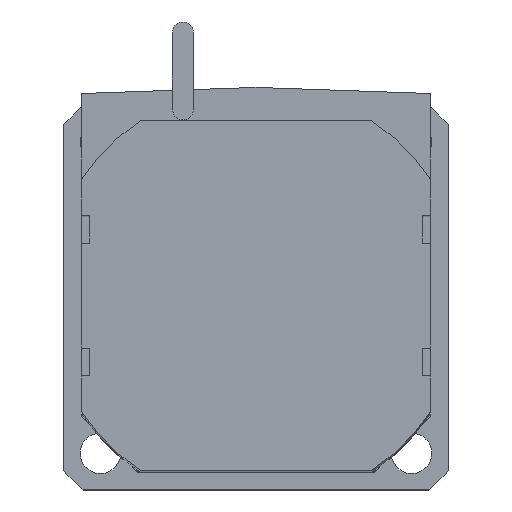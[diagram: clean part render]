
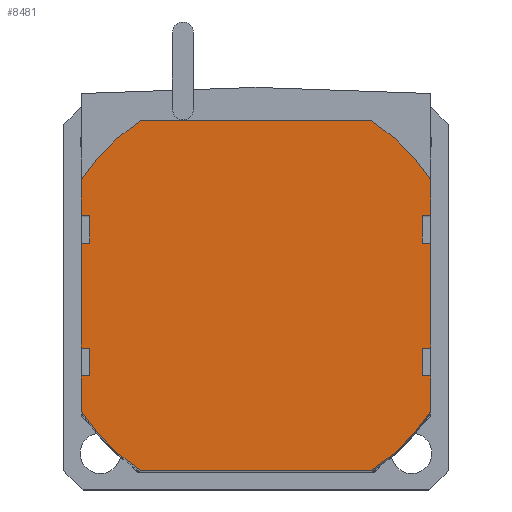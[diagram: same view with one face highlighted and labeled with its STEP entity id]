
A CAD part, top view. The second image highlights one B-rep face of the part: STEP entity #8481.
In plain terms, the highlighted planar face has unit normal (0, 0, 1).
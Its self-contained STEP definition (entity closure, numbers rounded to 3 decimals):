
#2322=LINE('',#12377,#10133);
#2323=LINE('',#12380,#10134);
#2324=LINE('',#12382,#10135);
#2325=LINE('',#12384,#10136);
#2326=LINE('',#12388,#10137);
#2327=LINE('',#12392,#10138);
#2328=LINE('',#12394,#10139);
#2329=LINE('',#12396,#10140);
#2330=LINE('',#12398,#10141);
#2331=LINE('',#12400,#10142);
#2332=LINE('',#12402,#10143);
#2333=LINE('',#12404,#10144);
#2334=LINE('',#12406,#10145);
#2335=LINE('',#12408,#10146);
#2336=LINE('',#12412,#10147);
#2337=LINE('',#12416,#10148);
#2338=LINE('',#12418,#10149);
#2339=LINE('',#12420,#10150);
#2340=LINE('',#12422,#10151);
#2341=LINE('',#12424,#10152);
#3064=VERTEX_POINT('',#12378);
#3065=VERTEX_POINT('',#12379);
#3066=VERTEX_POINT('',#12381);
#3067=VERTEX_POINT('',#12383);
#3068=VERTEX_POINT('',#12385);
#3069=VERTEX_POINT('',#12387);
#3070=VERTEX_POINT('',#12389);
#3071=VERTEX_POINT('',#12391);
#3072=VERTEX_POINT('',#12393);
#3073=VERTEX_POINT('',#12395);
#3074=VERTEX_POINT('',#12397);
#3075=VERTEX_POINT('',#12399);
#3076=VERTEX_POINT('',#12401);
#3077=VERTEX_POINT('',#12403);
#3078=VERTEX_POINT('',#12405);
#3079=VERTEX_POINT('',#12407);
#3080=VERTEX_POINT('',#12409);
#3081=VERTEX_POINT('',#12411);
#3082=VERTEX_POINT('',#12413);
#3083=VERTEX_POINT('',#12415);
#3084=VERTEX_POINT('',#12417);
#3085=VERTEX_POINT('',#12419);
#3086=VERTEX_POINT('',#12421);
#3087=VERTEX_POINT('',#12423);
#3697=CIRCLE('',#9195,30.);
#3698=CIRCLE('',#9196,30.);
#3699=CIRCLE('',#9197,30.);
#3700=CIRCLE('',#9198,30.);
#4321=EDGE_CURVE('',#3064,#3065,#2322,.T.);
#4322=EDGE_CURVE('',#3066,#3064,#2323,.T.);
#4323=EDGE_CURVE('',#3067,#3066,#2324,.T.);
#4324=EDGE_CURVE('',#3068,#3067,#2325,.T.);
#4325=EDGE_CURVE('',#3069,#3068,#3697,.T.);
#4326=EDGE_CURVE('',#3070,#3069,#2326,.T.);
#4327=EDGE_CURVE('',#3071,#3070,#3698,.T.);
#4328=EDGE_CURVE('',#3072,#3071,#2327,.T.);
#4329=EDGE_CURVE('',#3073,#3072,#2328,.T.);
#4330=EDGE_CURVE('',#3074,#3073,#2329,.T.);
#4331=EDGE_CURVE('',#3075,#3074,#2330,.T.);
#4332=EDGE_CURVE('',#3076,#3075,#2331,.T.);
#4333=EDGE_CURVE('',#3077,#3076,#2332,.T.);
#4334=EDGE_CURVE('',#3078,#3077,#2333,.T.);
#4335=EDGE_CURVE('',#3079,#3078,#2334,.T.);
#4336=EDGE_CURVE('',#3080,#3079,#2335,.T.);
#4337=EDGE_CURVE('',#3081,#3080,#3699,.T.);
#4338=EDGE_CURVE('',#3082,#3081,#2336,.T.);
#4339=EDGE_CURVE('',#3083,#3082,#3700,.T.);
#4340=EDGE_CURVE('',#3084,#3083,#2337,.T.);
#4341=EDGE_CURVE('',#3085,#3084,#2338,.T.);
#4342=EDGE_CURVE('',#3086,#3085,#2339,.T.);
#4343=EDGE_CURVE('',#3087,#3086,#2340,.T.);
#4344=EDGE_CURVE('',#3065,#3087,#2341,.T.);
#5623=ORIENTED_EDGE('',*,*,#4321,.F.);
#5624=ORIENTED_EDGE('',*,*,#4322,.F.);
#5625=ORIENTED_EDGE('',*,*,#4323,.F.);
#5626=ORIENTED_EDGE('',*,*,#4324,.F.);
#5627=ORIENTED_EDGE('',*,*,#4325,.F.);
#5628=ORIENTED_EDGE('',*,*,#4326,.F.);
#5629=ORIENTED_EDGE('',*,*,#4327,.F.);
#5630=ORIENTED_EDGE('',*,*,#4328,.F.);
#5631=ORIENTED_EDGE('',*,*,#4329,.F.);
#5632=ORIENTED_EDGE('',*,*,#4330,.F.);
#5633=ORIENTED_EDGE('',*,*,#4331,.F.);
#5634=ORIENTED_EDGE('',*,*,#4332,.F.);
#5635=ORIENTED_EDGE('',*,*,#4333,.F.);
#5636=ORIENTED_EDGE('',*,*,#4334,.F.);
#5637=ORIENTED_EDGE('',*,*,#4335,.F.);
#5638=ORIENTED_EDGE('',*,*,#4336,.F.);
#5639=ORIENTED_EDGE('',*,*,#4337,.F.);
#5640=ORIENTED_EDGE('',*,*,#4338,.F.);
#5641=ORIENTED_EDGE('',*,*,#4339,.F.);
#5642=ORIENTED_EDGE('',*,*,#4340,.F.);
#5643=ORIENTED_EDGE('',*,*,#4341,.F.);
#5644=ORIENTED_EDGE('',*,*,#4342,.F.);
#5645=ORIENTED_EDGE('',*,*,#4343,.F.);
#5646=ORIENTED_EDGE('',*,*,#4344,.F.);
#7367=EDGE_LOOP('',(#5623,#5624,#5625,#5626,#5627,#5628,#5629,#5630,#5631,
#5632,#5633,#5634,#5635,#5636,#5637,#5638,#5639,#5640,#5641,#5642,#5643,
#5644,#5645,#5646));
#7936=FACE_BOUND('',#7367,.T.);
#8481=ADVANCED_FACE('',(#7936),#10601,.T.);
#9194=AXIS2_PLACEMENT_3D('',#12376,#15722,$);
#9195=AXIS2_PLACEMENT_3D('',#12386,#15727,#15728);
#9196=AXIS2_PLACEMENT_3D('',#12390,#15730,#15731);
#9197=AXIS2_PLACEMENT_3D('',#12410,#15741,#15742);
#9198=AXIS2_PLACEMENT_3D('',#12414,#15744,#15745);
#10133=VECTOR('',#15723,1.);
#10134=VECTOR('',#15724,1.);
#10135=VECTOR('',#15725,1.);
#10136=VECTOR('',#15726,1.);
#10137=VECTOR('',#15729,1.);
#10138=VECTOR('',#15732,1.);
#10139=VECTOR('',#15733,1.);
#10140=VECTOR('',#15734,1.);
#10141=VECTOR('',#15735,1.);
#10142=VECTOR('',#15736,1.);
#10143=VECTOR('',#15737,1.);
#10144=VECTOR('',#15738,1.);
#10145=VECTOR('',#15739,1.);
#10146=VECTOR('',#15740,1.);
#10147=VECTOR('',#15743,1.);
#10148=VECTOR('',#15746,1.);
#10149=VECTOR('',#15747,1.);
#10150=VECTOR('',#15748,1.);
#10151=VECTOR('',#15749,1.);
#10152=VECTOR('',#15750,1.);
#10601=PLANE('',#9194);
#12376=CARTESIAN_POINT('',(0.,0.,118.5));
#12377=CARTESIAN_POINT('',(23.8,7.5,118.5));
#12378=CARTESIAN_POINT('',(23.8,7.5,118.5));
#12379=CARTESIAN_POINT('',(25.,7.5,118.5));
#12380=CARTESIAN_POINT('',(23.8,11.5,118.5));
#12381=CARTESIAN_POINT('',(23.8,11.5,118.5));
#12382=CARTESIAN_POINT('',(25.,11.5,118.5));
#12383=CARTESIAN_POINT('',(25.,11.5,118.5));
#12384=CARTESIAN_POINT('',(25.,16.583,118.5));
#12385=CARTESIAN_POINT('',(25.,16.583,118.5));
#12386=CARTESIAN_POINT('',(0.,0.,118.5));
#12387=CARTESIAN_POINT('',(16.583,25.,118.5));
#12388=CARTESIAN_POINT('',(-16.583,25.,118.5));
#12389=CARTESIAN_POINT('',(-16.583,25.,118.5));
#12390=CARTESIAN_POINT('',(0.,0.,118.5));
#12391=CARTESIAN_POINT('',(-25.,16.583,118.5));
#12392=CARTESIAN_POINT('',(-25.,11.5,118.5));
#12393=CARTESIAN_POINT('',(-25.,11.5,118.5));
#12394=CARTESIAN_POINT('',(-23.8,11.5,118.5));
#12395=CARTESIAN_POINT('',(-23.8,11.5,118.5));
#12396=CARTESIAN_POINT('',(-23.8,7.5,118.5));
#12397=CARTESIAN_POINT('',(-23.8,7.5,118.5));
#12398=CARTESIAN_POINT('',(-25.,7.5,118.5));
#12399=CARTESIAN_POINT('',(-25.,7.5,118.5));
#12400=CARTESIAN_POINT('',(-25.,-7.5,118.5));
#12401=CARTESIAN_POINT('',(-25.,-7.5,118.5));
#12402=CARTESIAN_POINT('',(-23.8,-7.5,118.5));
#12403=CARTESIAN_POINT('',(-23.8,-7.5,118.5));
#12404=CARTESIAN_POINT('',(-23.8,-11.5,118.5));
#12405=CARTESIAN_POINT('',(-23.8,-11.5,118.5));
#12406=CARTESIAN_POINT('',(-25.,-11.5,118.5));
#12407=CARTESIAN_POINT('',(-25.,-11.5,118.5));
#12408=CARTESIAN_POINT('',(-25.,-16.583,118.5));
#12409=CARTESIAN_POINT('',(-25.,-16.583,118.5));
#12410=CARTESIAN_POINT('',(0.,0.,118.5));
#12411=CARTESIAN_POINT('',(-16.583,-25.,118.5));
#12412=CARTESIAN_POINT('',(16.583,-25.,118.5));
#12413=CARTESIAN_POINT('',(16.583,-25.,118.5));
#12414=CARTESIAN_POINT('',(0.,0.,118.5));
#12415=CARTESIAN_POINT('',(25.,-16.583,118.5));
#12416=CARTESIAN_POINT('',(25.,-11.5,118.5));
#12417=CARTESIAN_POINT('',(25.,-11.5,118.5));
#12418=CARTESIAN_POINT('',(23.8,-11.5,118.5));
#12419=CARTESIAN_POINT('',(23.8,-11.5,118.5));
#12420=CARTESIAN_POINT('',(23.8,-7.5,118.5));
#12421=CARTESIAN_POINT('',(23.8,-7.5,118.5));
#12422=CARTESIAN_POINT('',(25.,-7.5,118.5));
#12423=CARTESIAN_POINT('',(25.,-7.5,118.5));
#12424=CARTESIAN_POINT('',(25.,7.5,118.5));
#15722=DIRECTION('',(0.,0.,1.));
#15723=DIRECTION('',(1.,0.,0.));
#15724=DIRECTION('',(0.,-1.,0.));
#15725=DIRECTION('',(-1.,0.,0.));
#15726=DIRECTION('',(0.,-1.,0.));
#15727=DIRECTION('',(0.,0.,-1.));
#15728=DIRECTION('',(30.,0.,0.));
#15729=DIRECTION('',(1.,0.,0.));
#15730=DIRECTION('',(0.,0.,-1.));
#15731=DIRECTION('',(30.,0.,0.));
#15732=DIRECTION('',(0.,1.,0.));
#15733=DIRECTION('',(-1.,0.,0.));
#15734=DIRECTION('',(0.,1.,0.));
#15735=DIRECTION('',(1.,0.,0.));
#15736=DIRECTION('',(0.,1.,0.));
#15737=DIRECTION('',(-1.,0.,0.));
#15738=DIRECTION('',(0.,1.,0.));
#15739=DIRECTION('',(1.,0.,0.));
#15740=DIRECTION('',(0.,1.,0.));
#15741=DIRECTION('',(0.,0.,-1.));
#15742=DIRECTION('',(30.,0.,0.));
#15743=DIRECTION('',(-1.,0.,0.));
#15744=DIRECTION('',(0.,0.,-1.));
#15745=DIRECTION('',(30.,0.,0.));
#15746=DIRECTION('',(0.,-1.,0.));
#15747=DIRECTION('',(1.,0.,0.));
#15748=DIRECTION('',(0.,-1.,0.));
#15749=DIRECTION('',(-1.,0.,0.));
#15750=DIRECTION('',(0.,-1.,0.));
